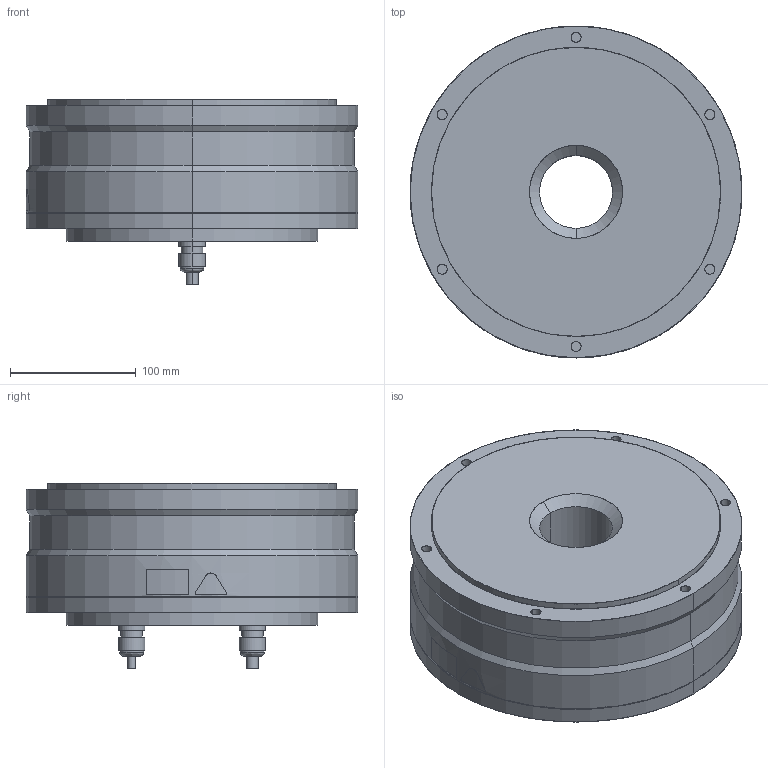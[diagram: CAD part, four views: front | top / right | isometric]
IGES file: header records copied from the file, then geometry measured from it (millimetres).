
Start section: SolidWorks IGES file using analytic representation for surfaces
Bounding box: 264.08 x 264 x 147.8 mm (x, y, z)
Surface area: 230746.7 mm2 (no closed solid volume)
Topology: 0 solids, 0 shells, 224 faces, 5268 edges, 5268 vertices
Faces by surface type: revolution 142, bspline 82
